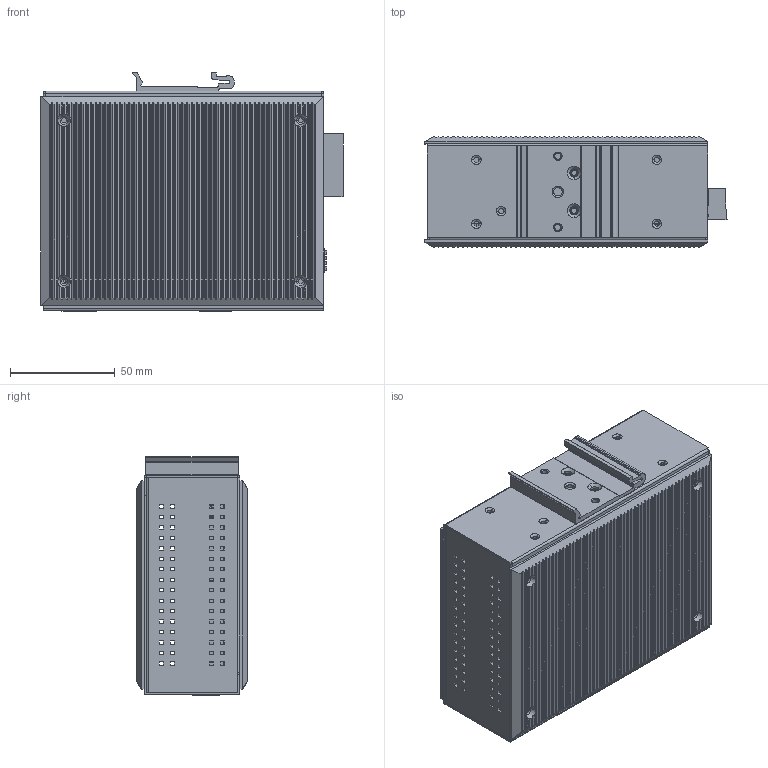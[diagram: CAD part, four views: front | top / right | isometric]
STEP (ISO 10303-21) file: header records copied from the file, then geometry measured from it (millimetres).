
FILE_DESCRIPTION((''),'2;1');
FILE_NAME('3D_IMC-101G','2017-03-01T',('Vincent_Huang'),('PTC'),'PRO/ENGINEER BY PARAMETRIC TECHNOLOGY CORPORATION, 2013230','PRO/ENGINEER BY PARAMETRIC TECHNOLOGY CORPORATION, 2013230','');
FILE_SCHEMA(('AUTOMOTIVE_DESIGN { 1 0 10303 214 1 1 1 1 }'));
Products named in the file (1): 3D_IMC-101G
Bounding box: 144.24 x 52.98 x 114 mm (x, y, z)
Volume: 139656 mm3; surface area: 181024.2 mm2
Topology: 2 solids, 32 shells, 2244 faces, 6025 edges, 3911 vertices
Faces by surface type: plane 1388, cylinder 696, cone 106, torus 44, bspline 10
Entity records: 78793 total; most frequent: CARTESIAN_POINT 14310, ORIENTED_EDGE 11962, DIRECTION 10881, EDGE_CURVE 6005, VECTOR 4225, LINE 4225, VERTEX_POINT 3913, AXIS2_PLACEMENT_3D 3328
